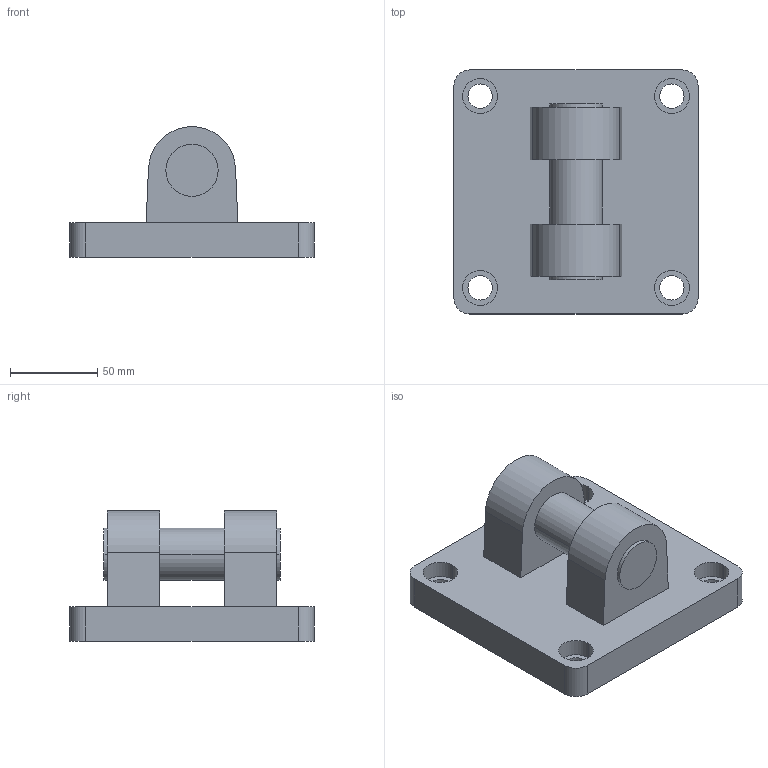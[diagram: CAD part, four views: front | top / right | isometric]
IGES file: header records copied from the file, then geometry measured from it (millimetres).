
Global section: file name: No Iges File Name specified; native system: AutoDesk Inventor R11.0; preprocessor: AutoDesk Inventor Iges Exporter R11.0; author: No Author specified; organization: No Organization specified; date: 20060711.173810; units: millimetre
Bounding box: 140 x 140 x 75 mm (x, y, z)
Volume: 538082.1 mm3; surface area: 71630.9 mm2
Topology: 1 solids, 1 shells, 51 faces, 120 edges, 80 vertices
Faces by surface type: bspline 23, plane 16, cylinder 12
